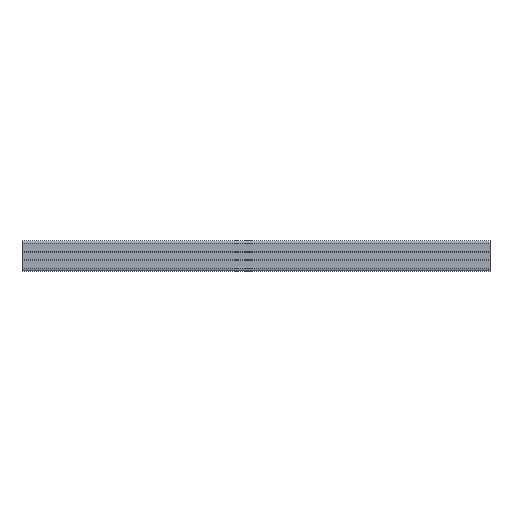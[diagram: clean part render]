
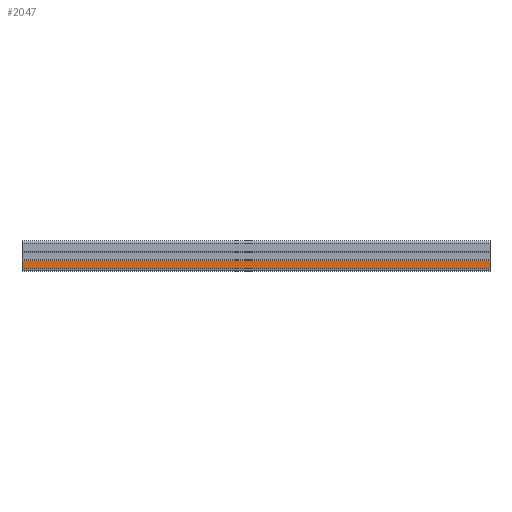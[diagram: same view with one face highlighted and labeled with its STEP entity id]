
A CAD part, front view. The second image highlights one B-rep face of the part: STEP entity #2047.
In plain terms, the highlighted free-form (B-spline) face has degree [1, 1] with [2, 2] control points.
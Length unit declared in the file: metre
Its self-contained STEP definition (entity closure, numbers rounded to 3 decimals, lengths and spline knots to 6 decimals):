
#25=B_SPLINE_SURFACE_WITH_KNOTS('',1,1,((#2998,#2999),(#3000,#3001)),
 .PLANE_SURF.,.F.,.F.,.F.,(2,2),(2,2),(0.,1.),(0.,1.),.UNSPECIFIED.);
#115=LINE('',#2995,#315);
#116=LINE('',#3002,#316);
#117=LINE('',#3004,#317);
#118=LINE('',#3006,#318);
#315=VECTOR('',#2366,1.);
#316=VECTOR('',#2369,1.);
#317=VECTOR('',#2370,1.);
#318=VECTOR('',#2371,1.);
#570=ORIENTED_EDGE('',*,*,#1178,.T.);
#571=ORIENTED_EDGE('',*,*,#1180,.F.);
#572=ORIENTED_EDGE('',*,*,#1181,.F.);
#573=ORIENTED_EDGE('',*,*,#1182,.T.);
#1178=EDGE_CURVE('',#1471,#1470,#115,.T.);
#1180=EDGE_CURVE('',#1472,#1470,#116,.T.);
#1181=EDGE_CURVE('',#1473,#1472,#117,.T.);
#1182=EDGE_CURVE('',#1473,#1471,#118,.T.);
#1470=VERTEX_POINT('',#2994);
#1471=VERTEX_POINT('',#2996);
#1472=VERTEX_POINT('',#3003);
#1473=VERTEX_POINT('',#3005);
#1775=EDGE_LOOP('',(#570,#571,#572,#573));
#1883=FACE_BOUND('',#1775,.T.);
#2047=ADVANCED_FACE('',(#1883),#25,.T.);
#2366=DIRECTION('',(1.,0.,0.));
#2369=DIRECTION('',(0.,0.,-1.));
#2370=DIRECTION('',(1.,0.,0.));
#2371=DIRECTION('',(0.,0.,-1.));
#2994=CARTESIAN_POINT('',(0.143999,-0.01,-0.048662));
#2995=CARTESIAN_POINT('',(-0.166001,-0.01,-0.048662));
#2996=CARTESIAN_POINT('',(-0.166001,-0.01,-0.048662));
#2998=CARTESIAN_POINT('',(-0.181501,-0.01,-0.043032));
#2999=CARTESIAN_POINT('',(0.159499,-0.01,-0.043032));
#3000=CARTESIAN_POINT('',(-0.181501,-0.01,-0.04893));
#3001=CARTESIAN_POINT('',(0.159499,-0.01,-0.04893));
#3002=CARTESIAN_POINT('',(0.143999,-0.01,-0.045981));
#3003=CARTESIAN_POINT('',(0.143999,-0.01,-0.0433));
#3004=CARTESIAN_POINT('',(-0.166001,-0.01,-0.0433));
#3005=CARTESIAN_POINT('',(-0.166001,-0.01,-0.0433));
#3006=CARTESIAN_POINT('',(-0.166001,-0.01,-0.045981));
